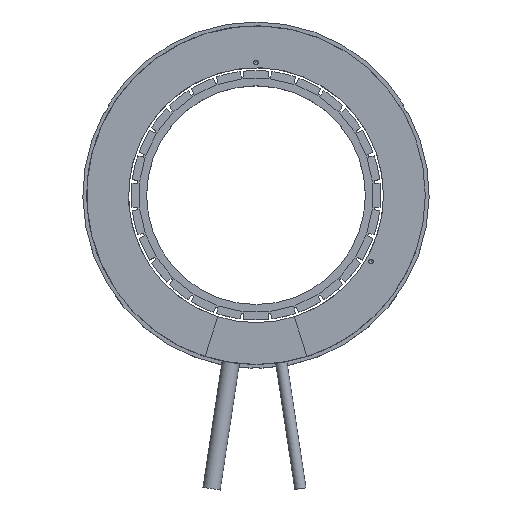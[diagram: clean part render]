
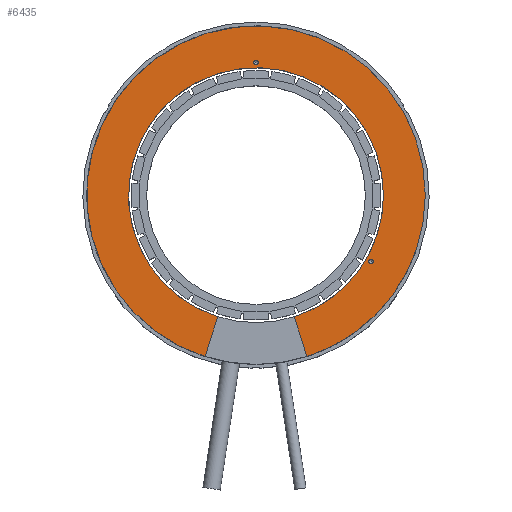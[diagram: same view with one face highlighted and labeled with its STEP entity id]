
A CAD part, top view. The second image highlights one B-rep face of the part: STEP entity #6435.
In plain terms, the highlighted planar face has unit normal (0, 0, 1).
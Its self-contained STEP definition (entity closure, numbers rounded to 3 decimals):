
#121=LINE('',#9267,#943);
#122=LINE('',#9268,#944);
#943=VECTOR('',#7401,1000.);
#944=VECTOR('',#7402,1000.);
#1789=ORIENTED_EDGE('',*,*,#3697,.T.);
#1790=ORIENTED_EDGE('',*,*,#3698,.T.);
#1791=ORIENTED_EDGE('',*,*,#3699,.F.);
#1792=ORIENTED_EDGE('',*,*,#3685,.T.);
#1793=ORIENTED_EDGE('',*,*,#3700,.F.);
#1794=ORIENTED_EDGE('',*,*,#3693,.F.);
#3685=EDGE_CURVE('',#4637,#4638,#5227,.T.);
#3693=EDGE_CURVE('',#4645,#4646,#5231,.T.);
#3697=EDGE_CURVE('',#4649,#4649,#5233,.T.);
#3698=EDGE_CURVE('',#4650,#4650,#5234,.T.);
#3699=EDGE_CURVE('',#4637,#4645,#121,.T.);
#3700=EDGE_CURVE('',#4646,#4638,#122,.T.);
#4637=VERTEX_POINT('',#9217);
#4638=VERTEX_POINT('',#9218);
#4645=VERTEX_POINT('',#9255);
#4646=VERTEX_POINT('',#9256);
#4649=VERTEX_POINT('',#9264);
#4650=VERTEX_POINT('',#9266);
#5227=CIRCLE('',#6832,65.);
#5231=CIRCLE('',#6838,48.95);
#5233=CIRCLE('',#6841,0.825);
#5234=CIRCLE('',#6842,0.825);
#5368=EDGE_LOOP('',(#1789));
#5369=EDGE_LOOP('',(#1790));
#5370=EDGE_LOOP('',(#1791,#1792,#1793,#1794));
#5754=FACE_BOUND('',#5368,.T.);
#5755=FACE_BOUND('',#5369,.T.);
#5756=FACE_BOUND('',#5370,.T.);
#6130=PLANE('',#6840);
#6435=ADVANCED_FACE('',(#5754,#5755,#5756),#6130,.T.);
#6832=AXIS2_PLACEMENT_3D('',#9216,#7375,#7376);
#6838=AXIS2_PLACEMENT_3D('',#9254,#7389,#7390);
#6840=AXIS2_PLACEMENT_3D('',#9262,#7395,#7396);
#6841=AXIS2_PLACEMENT_3D('',#9263,#7397,#7398);
#6842=AXIS2_PLACEMENT_3D('',#9265,#7399,#7400);
#7375=DIRECTION('',(0.,0.,1.));
#7376=DIRECTION('',(1.,0.,0.));
#7389=DIRECTION('',(0.,0.,1.));
#7390=DIRECTION('',(1.,0.,0.));
#7395=DIRECTION('',(0.,0.,1.));
#7396=DIRECTION('',(1.,0.,0.));
#7397=DIRECTION('',(0.,0.,-1.));
#7398=DIRECTION('',(0.,-1.,0.));
#7399=DIRECTION('',(0.,0.,-1.));
#7400=DIRECTION('',(0.,-1.,0.));
#7401=DIRECTION('',(-0.301,0.954,0.));
#7402=DIRECTION('',(-0.301,-0.954,0.));
#9216=CARTESIAN_POINT('',(0.,0.,34.));
#9217=CARTESIAN_POINT('',(19.546,-61.992,34.));
#9218=CARTESIAN_POINT('',(-19.546,-61.992,34.));
#9254=CARTESIAN_POINT('',(0.,0.,34.));
#9255=CARTESIAN_POINT('',(14.72,-46.684,34.));
#9256=CARTESIAN_POINT('',(-14.72,-46.684,34.));
#9262=CARTESIAN_POINT('',(48.95,0.,34.));
#9263=CARTESIAN_POINT('',(0.,51.,34.));
#9264=CARTESIAN_POINT('',(0.,50.175,34.));
#9265=CARTESIAN_POINT('',(44.167,-25.5,34.));
#9266=CARTESIAN_POINT('',(44.167,-26.325,34.));
#9267=CARTESIAN_POINT('',(14.72,-46.684,34.));
#9268=CARTESIAN_POINT('',(-14.72,-46.684,34.));
